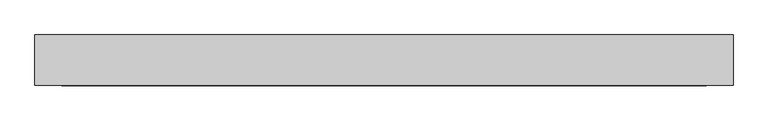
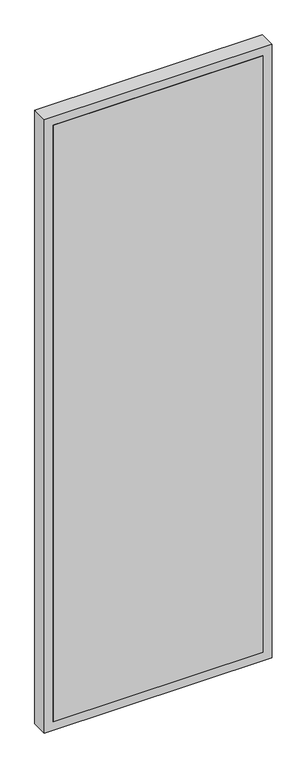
"""IFC4 building model written with IfcOpenShell, lengths in millimetres: plate geometry, VERTI PANORAMA - plná výpň : Dýhovaný povrch."""

from ifc_helpers import new_model, si_unit, frame, origin, place, context, project, spatial, polyline, outline, extrude, source, transform, mapped, element, save


def plate_42d85a05(model_context):
    return source(origin(), model_context, "Body", "SweptSolid", [
        extrude(outline(polyline([(-480.0, -37.5), (-480.0, -25.5), (480.0, -25.5), (480.0, -37.5), (-480.0, -37.5)])), frame((0.0, 0.0, 20.0), z_axis=(0.0, 0.0, 1.0), x_axis=(1.0, 0.0, 0.0)), (0.0, 0.0, 1.0), 2880.0),
        extrude(outline(polyline([(480.0, 37.5), (480.0, 25.5), (-480.0, 25.5), (-480.0, 37.5), (480.0, 37.5)])), frame((0.0, 0.0, 20.0), z_axis=(0.0, 0.0, 1.0), x_axis=(1.0, 0.0, 0.0)), (0.0, 0.0, 1.0), 2880.0),
        extrude(outline(polyline([(2940.0, 520.0), (2940.0, -520.0), (-20.0, -520.0), (-20.0, 520.0), (2940.0, 520.0)]), holes=[polyline([(20.0, 480.0), (20.0, -480.0), (2900.0, -480.0), (2900.0, 480.0), (20.0, 480.0)])]), frame((0.0, -37.5, 0.0), z_axis=(0.0, 1.0, 0.0), x_axis=(0.0, 0.0, 1.0)), (0.0, 0.0, 1.0), 75.0),
    ])


if __name__ == "__main__":
    model = new_model("IFC4")
    model_context = context("Model", 3, world=origin())
    ifc_project = project(units=[si_unit("LENGTHUNIT", "METRE", prefix="MILLI")], contexts=[model_context])
    site = spatial("IfcSite", under=ifc_project)
    building = spatial("IfcBuilding", under=site)
    placement = place(None, origin())
    plate_shape = plate_42d85a05(model_context)
    element("IfcPlate", 1, ObjectType="VERTI PANORAMA - plná výpň : Dýhovaný povrch", at=placement, inside=building, context=model_context, shape_type="MappedRepresentation", body=[
        mapped(plate_shape, transform((0.0, 0.0, 0.0), x_axis=(1.0, 0.0, 0.0), y_axis=(0.0, 1.0, 0.0), z_axis=(0.0, 0.0, 1.0))),
    ])
    save(model, "model.ifc")
